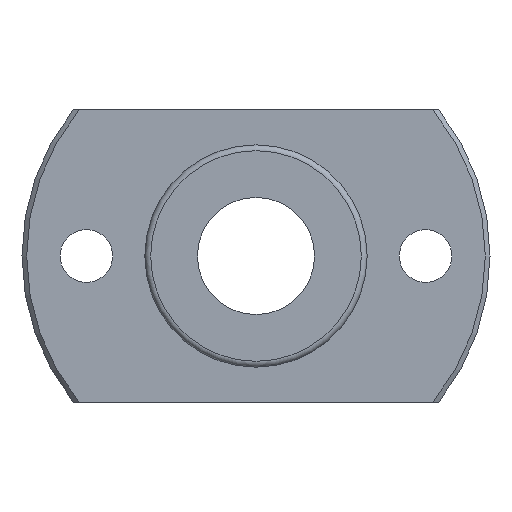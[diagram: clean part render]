
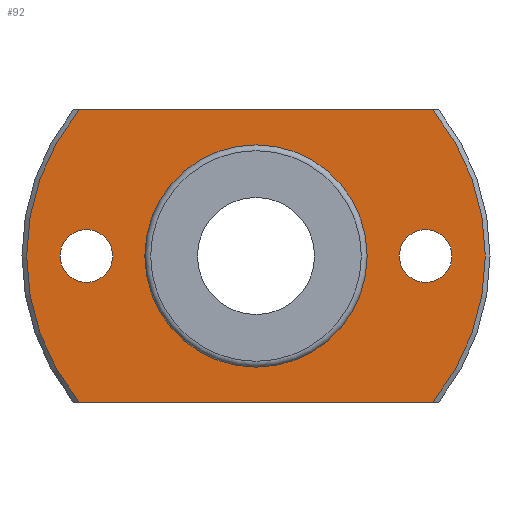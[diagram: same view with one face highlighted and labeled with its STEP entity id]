
A CAD part, left-side view. The second image highlights one B-rep face of the part: STEP entity #92.
In plain terms, the highlighted planar face has unit normal (-1, 0, 0).
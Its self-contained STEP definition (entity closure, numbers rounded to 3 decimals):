
#92=ADVANCED_FACE('',(#145,#146,#147,#148),#149,.T.);
#145=FACE_BOUND('',#207,.T.);
#146=FACE_BOUND('',#208,.T.);
#147=FACE_BOUND('',#209,.T.);
#148=FACE_OUTER_BOUND('',#210,.T.);
#149=PLANE('',#211);
#207=EDGE_LOOP('',(#328));
#208=EDGE_LOOP('',(#329));
#209=EDGE_LOOP('',(#330));
#210=EDGE_LOOP('',(#331,#332,#333,#334));
#211=AXIS2_PLACEMENT_3D('',#335,#336,#337);
#328=ORIENTED_EDGE('',*,*,#399,.F.);
#329=ORIENTED_EDGE('',*,*,#396,.T.);
#330=ORIENTED_EDGE('',*,*,#394,.T.);
#331=ORIENTED_EDGE('',*,*,#376,.T.);
#332=ORIENTED_EDGE('',*,*,#401,.T.);
#333=ORIENTED_EDGE('',*,*,#402,.T.);
#334=ORIENTED_EDGE('',*,*,#366,.T.);
#335=CARTESIAN_POINT('',(-6.0,14.425,0.0));
#336=DIRECTION('',(-1.0,0.0,0.));
#337=DIRECTION('',(0.,0.0,1.0));
#366=EDGE_CURVE('',#405,#406,#407,.T.);
#376=EDGE_CURVE('',#406,#423,#425,.T.);
#394=EDGE_CURVE('',#455,#455,#456,.T.);
#396=EDGE_CURVE('',#459,#459,#460,.T.);
#399=EDGE_CURVE('',#465,#465,#466,.T.);
#401=EDGE_CURVE('',#423,#469,#470,.T.);
#402=EDGE_CURVE('',#469,#405,#471,.T.);
#405=VERTEX_POINT('',#475);
#406=VERTEX_POINT('',#476);
#407=LINE('',#477,#478);
#423=VERTEX_POINT('',#509);
#425=CIRCLE('',#514,19.6);
#455=VERTEX_POINT('',#553);
#456=CIRCLE('',#554,2.25);
#459=VERTEX_POINT('',#557);
#460=CIRCLE('',#558,2.25);
#465=VERTEX_POINT('',#563);
#466=CIRCLE('',#564,9.25);
#469=VERTEX_POINT('',#567);
#470=LINE('',#568,#569);
#471=CIRCLE('',#570,19.6);
#475=CARTESIAN_POINT('',(-6.0,-15.097,12.5));
#476=CARTESIAN_POINT('',(-6.0,15.097,12.5));
#477=CARTESIAN_POINT('',(-6.0,14.425,12.5));
#478=VECTOR('',#577,1.0);
#509=CARTESIAN_POINT('',(-6.0,15.097,-12.5));
#514=AXIS2_PLACEMENT_3D('',#584,#585,#586);
#553=CARTESIAN_POINT('',(-6.0,-14.5,2.25));
#554=AXIS2_PLACEMENT_3D('',#626,#627,#628);
#557=CARTESIAN_POINT('',(-6.0,14.5,2.25));
#558=AXIS2_PLACEMENT_3D('',#632,#633,#634);
#563=CARTESIAN_POINT('',(-6.0,9.25,0.0));
#564=AXIS2_PLACEMENT_3D('',#641,#642,#643);
#567=CARTESIAN_POINT('',(-6.0,-15.097,-12.5));
#568=CARTESIAN_POINT('',(-6.0,14.425,-12.5));
#569=VECTOR('',#647,1.0);
#570=AXIS2_PLACEMENT_3D('',#648,#649,#650);
#577=DIRECTION('',(0.0,1.0,0.0));
#584=CARTESIAN_POINT('',(-6.0,0.0,0.0));
#585=DIRECTION('',(-1.0,0.0,0.));
#586=DIRECTION('',(0.0,1.0,0.0));
#626=CARTESIAN_POINT('',(-6.0,-14.5,0.0));
#627=DIRECTION('',(1.0,0.0,0.));
#628=DIRECTION('',(0.,0.0,-1.0));
#632=CARTESIAN_POINT('',(-6.0,14.5,0.0));
#633=DIRECTION('',(1.0,0.0,0.));
#634=DIRECTION('',(0.,0.0,-1.0));
#641=CARTESIAN_POINT('',(-6.0,0.0,0.0));
#642=DIRECTION('',(-1.0,0.0,0.));
#643=DIRECTION('',(0.0,1.0,0.0));
#647=DIRECTION('',(0.0,-1.0,0.0));
#648=CARTESIAN_POINT('',(-6.0,0.0,0.0));
#649=DIRECTION('',(-1.0,0.0,0.));
#650=DIRECTION('',(0.0,1.0,0.0));
